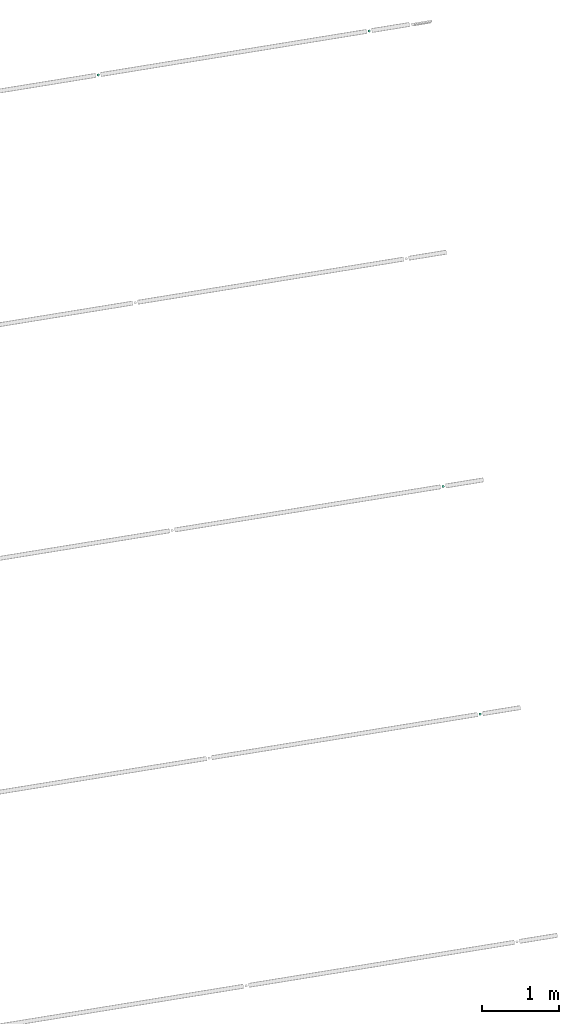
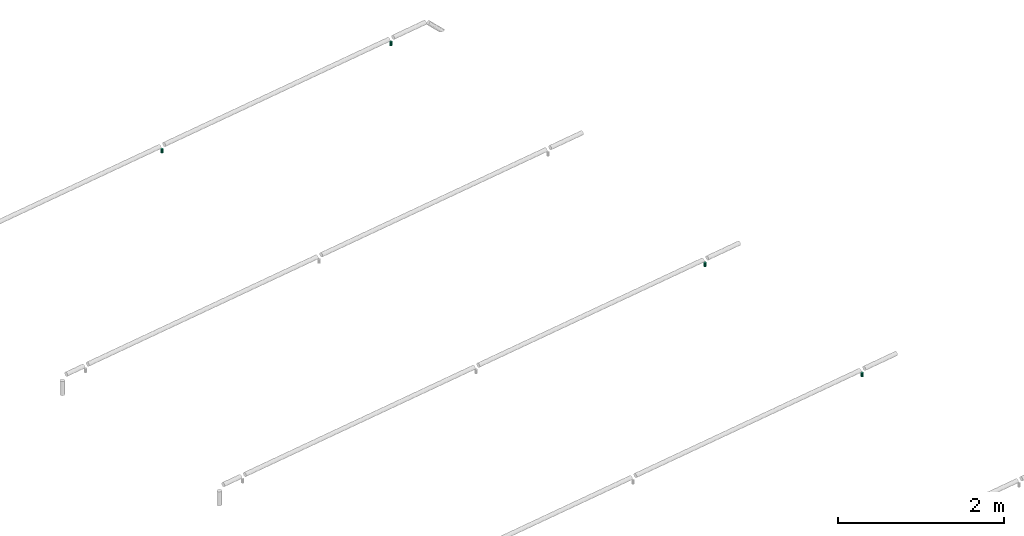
# One storey, part 8 of 10: 4 flow segments.
"""IFC2X3 building model written with IfcOpenShell, lengths in millimetres."""

import ifcopenshell
import ifcopenshell.guid

model = None  # the IFC model being written
_history = None  # IfcOwnerHistory: only IFC2X3 demands one
_inside = {}  # id of a spatial element -> (the spatial element, [elements in it])
_under = {}  # id of a project, library or spatial element -> (it, [spatial elements below it])
_declared = {}  # id of a project -> (the project, [libraries it declares])
_typed = {}  # id of a type object -> (the type object, [elements of that type])
_made_of = {}  # id of a material, layer set ... -> (it, [elements and type objects made of it])


def new_model(schema):
    """Start an empty IFC model of exactly this schema.

    Asked for "IFC4X3", IfcOpenShell would pick the latest addendum, in which some entities
    have other attributes; the version numbers below select the first issue.
    IFC2X3 requires an IfcOwnerHistory on every rooted entity: one is made here for all.
    """
    global model, _history
    if schema == "IFC4X3":
        model = ifcopenshell.file(schema_version=(4, 3, 0, 0))
    else:
        model = ifcopenshell.file(schema=schema)
    _inside.clear()
    _under.clear()
    _declared.clear()
    _typed.clear()
    _made_of.clear()
    _history = None
    if model.schema == "IFC2X3":
        org = make("IfcOrganization", Name="unknown")
        user = make(
            "IfcPersonAndOrganization",
            ThePerson=make("IfcPerson", FamilyName="unknown"),
            TheOrganization=org,
        )
        app = make(
            "IfcApplication",
            ApplicationDeveloper=org,
            Version="unknown",
            ApplicationFullName="unknown",
            ApplicationIdentifier="unknown",
        )
        _history = make(
            "IfcOwnerHistory",
            OwningUser=user,
            OwningApplication=app,
            ChangeAction="ADDED",
            CreationDate=0,
        )
    return model


def make(cls, **values):
    """One entity of the class cls with the attributes given. An attribute that is None is left unset."""
    return model.create_entity(
        cls, **{name: value for name, value in values.items() if value is not None}
    )


def entity(cls, *values):
    """Any entity or typed value of the class cls, its attributes in the order of the schema. None: left unset."""
    e = model.create_entity(cls)
    for i, value in enumerate(values):
        if value is not None:
            e[i] = value
    return e


def rooted(cls, **values):
    """An entity with a GlobalId (a new one), such as an element, a storey or a relation."""
    return make(cls, GlobalId=ifcopenshell.guid.new(), OwnerHistory=_history, **values)


def si_unit(unit_type, name, prefix=None):
    """IfcSIUnit, for example si_unit("LENGTHUNIT", "METRE", prefix="MILLI")."""
    return make("IfcSIUnit", UnitType=unit_type, Prefix=prefix, Name=name)


def converted_unit(unit_type, name, factor, base, dimensions=None, offset=None):
    """IfcConversionBasedUnit, such as the inch: factor (a typed value) times the base unit."""
    return make(
        "IfcConversionBasedUnit"
        if offset is None
        else "IfcConversionBasedUnitWithOffset",
        ConversionOffset=offset,
        Dimensions=None
        if dimensions is None
        else entity("IfcDimensionalExponents", *dimensions),
        UnitType=unit_type,
        Name=name,
        ConversionFactor=make(
            "IfcMeasureWithUnit", ValueComponent=factor, UnitComponent=base
        ),
    )


def derived_unit(unit_type, elements):
    """IfcDerivedUnit: a product of units, each with its exponent."""
    return make(
        "IfcDerivedUnit",
        Elements=[
            make("IfcDerivedUnitElement", Unit=unit, Exponent=power)
            for unit, power in elements
        ],
        UnitType=unit_type,
    )


def assignment(units):
    """IfcUnitAssignment: the units of a project."""
    return None if units is None else make("IfcUnitAssignment", Units=units)


def point(xyz):
    """IfcCartesianPoint."""
    return None if xyz is None else make("IfcCartesianPoint", Coordinates=xyz)


def direction(xyz):
    """IfcDirection."""
    return None if xyz is None else make("IfcDirection", DirectionRatios=xyz)


def frame(location, z_axis=None, x_axis=None):
    """IfcAxis2Placement3D, a coordinate frame: its origin and axes. An axis left out is left unset."""
    return make(
        "IfcAxis2Placement3D",
        Location=point(location),
        Axis=direction(z_axis),
        RefDirection=direction(x_axis),
    )


def frame_2d(location, x_axis=None):
    """IfcAxis2Placement2D, a coordinate frame in the plane: its origin and x axis."""
    return make(
        "IfcAxis2Placement2D", Location=point(location), RefDirection=direction(x_axis)
    )


def origin():
    """The frame at (0, 0, 0) with its axes left unset."""
    return frame((0.0, 0.0, 0.0))


def origin_with_axes():
    """The frame at (0, 0, 0) with the z axis (0, 0, 1) and the x axis (1, 0, 0) written out."""
    return frame((0.0, 0.0, 0.0), z_axis=(0.0, 0.0, 1.0), x_axis=(1.0, 0.0, 0.0))


def origin_2d_with_axis():
    """The frame at (0, 0) in the plane with the x axis (1, 0) written out."""
    return frame_2d((0.0, 0.0), x_axis=(1.0, 0.0))


def place(relative_to, where):
    """IfcLocalPlacement: puts the frame where relative to a parent placement (None: the world)."""
    return make(
        "IfcLocalPlacement", PlacementRelTo=relative_to, RelativePlacement=where
    )


def context(
    kind, dimensions, precision=None, world=None, true_north=None, identifier=None
):
    """IfcGeometricRepresentationContext, for example the 3D "Model" context."""
    return make(
        "IfcGeometricRepresentationContext",
        ContextIdentifier=identifier,
        ContextType=kind,
        CoordinateSpaceDimension=dimensions,
        Precision=precision,
        WorldCoordinateSystem=world,
        TrueNorth=true_north,
    )


def subcontext(parent, identifier, kind, view, scale=None):
    """IfcGeometricRepresentationSubContext, for example "Body" below "Model"."""
    return make(
        "IfcGeometricRepresentationSubContext",
        ContextIdentifier=identifier,
        ContextType=kind,
        ParentContext=parent,
        TargetScale=scale,
        TargetView=view,
    )


def project(units=None, contexts=None):
    """IfcProject with its units and contexts."""
    return rooted(
        "IfcProject",
        Name="project",
        RepresentationContexts=contexts,
        UnitsInContext=assignment(units),
    )


def spatial(cls, under=None, at=None, **own):
    """A site, building, storey or space (cls), placed at a placement, below another one or the project."""
    s = rooted(cls, ObjectPlacement=at, **own)
    if under is not None:
        _under.setdefault(under.id(), (under, []))[1].append(s)
    return s


def profile(cls, at=None, kind="AREA", **sizes):
    """A parametric profile (cls). Its sizes go by their IFC names, for example OverallWidth=200.0."""
    return make(cls, ProfileType=kind, Position=at, **sizes)


def circle(**sizes):
    """IfcCircleProfileDef."""
    return profile("IfcCircleProfileDef", **sizes)


def extrude(swept, where, along, depth):
    """IfcExtrudedAreaSolid: the profile swept, set in the frame where, extruded along a direction by depth."""
    return make(
        "IfcExtrudedAreaSolid",
        SweptArea=swept,
        Position=where,
        ExtrudedDirection=direction(along),
        Depth=depth,
    )


def shape(context_of_items, identifier, shape_type, items):
    """IfcShapeRepresentation: the items that make up one representation, for example the "Body"."""
    return make(
        "IfcShapeRepresentation",
        ContextOfItems=context_of_items,
        RepresentationIdentifier=identifier,
        RepresentationType=shape_type,
        Items=items,
    )


def made_of(thing, what):
    """Note that an element or type object is made of a material, layer set ...; save() writes the relation."""
    if what is not None:
        _made_of.setdefault(what.id(), (what, []))[1].append(thing)
    return thing


def type_object(cls, material=None, **own):
    """A type object (cls), such as IfcWallType, which elements share."""
    return made_of(rooted(cls, **own), material)


def element(
    cls,
    number,
    at=None,
    inside=None,
    cuts=None,
    type_object=None,
    material=None,
    context=None,
    identifier="Body",
    shape_type=None,
    held_by="IfcProductDefinitionShape",
    body=None,
    shapes=None,
    **own,
):
    """One element of the class cls, such as IfcWall. Its Tag is "e" and its number.

    at: its placement. inside: the storey or other place that contains it. cuts: it is an
    opening in that element (IfcRelVoidsElement). A single representation is given by context,
    identifier, shape_type and body (its items); several are given by shapes. held_by: the class
    of the entity that holds the representations. save() writes the other relations.
    """
    e = rooted(cls, Tag="e%d" % number, ObjectPlacement=at, **own)
    if body is not None:
        shapes = [shape(context, identifier, shape_type, body)]
    if shapes is not None:
        e.Representation = make(held_by, Representations=shapes)
    if inside is not None:
        _inside.setdefault(inside.id(), (inside, []))[1].append(e)
    if cuts is not None:
        rooted(
            "IfcRelVoidsElement", RelatingBuildingElement=cuts, RelatedOpeningElement=e
        )
    if type_object is not None:
        _typed.setdefault(type_object.id(), (type_object, []))[1].append(e)
    return made_of(e, material)


def aggregate(whole, parts):
    """IfcRelAggregates: a whole, such as a stair, and the parts it consists of."""
    return rooted("IfcRelAggregates", RelatingObject=whole, RelatedObjects=parts)


def save(model, path):
    """Write the relations noted so far, then the file.

    IfcRelAggregates (storeys below a building ...), IfcRelContainedInSpatialStructure (elements
    in a storey), IfcRelDefinesByType, IfcRelAssociatesMaterial and IfcRelDeclares: one each for
    every whole, place, type object, material and project.
    """
    for whole, parts in _under.values():
        aggregate(whole, parts)
    for where, things in _inside.values():
        rooted(
            "IfcRelContainedInSpatialStructure",
            RelatedElements=things,
            RelatingStructure=where,
        )
    for kind, things in _typed.values():
        rooted("IfcRelDefinesByType", RelatedObjects=things, RelatingType=kind)
    for what, things in _made_of.values():
        rooted("IfcRelAssociatesMaterial", RelatedObjects=things, RelatingMaterial=what)
    for by, libraries in _declared.values():
        rooted("IfcRelDeclares", RelatingContext=by, RelatedDefinitions=libraries)
    model.write(path)


model = new_model("IFC2X3")

# Units and contexts
plan_context = context("Plan", 3, precision=1e-05, world=origin_with_axes())
model_context = context("Model", 3, precision=0.01, world=origin(), true_north=direction((6.12323399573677e-17, 1.0)))
body_context = subcontext(model_context, "Body", "Model", "MODEL_VIEW")
ifc_project = project(units=[converted_unit("PLANEANGLEUNIT", "DEGREE", entity("IfcPositiveLengthMeasure", 0.0174532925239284), si_unit("PLANEANGLEUNIT", "RADIAN"), dimensions=[0, 0, 0, 0, 0, 0, 0]), si_unit("AREAUNIT", "SQUARE_METRE"), si_unit("LENGTHUNIT", "METRE", prefix="MILLI"), si_unit("MASSUNIT", "GRAM", prefix="KILO"), si_unit("POWERUNIT", "WATT"), si_unit("PRESSUREUNIT", "PASCAL", prefix="KILO"), si_unit("FORCEUNIT", "NEWTON", prefix="KILO"), si_unit("ELECTRICVOLTAGEUNIT", "VOLT"), si_unit("ELECTRICCURRENTUNIT", "AMPERE"), si_unit("THERMODYNAMICTEMPERATUREUNIT", "DEGREE_CELSIUS"), si_unit("TIMEUNIT", "SECOND"), si_unit("VOLUMEUNIT", "CUBIC_METRE"), derived_unit("LINEARVELOCITYUNIT", [(si_unit("LENGTHUNIT", "METRE"), 1), (si_unit("TIMEUNIT", "SECOND"), -1)]), derived_unit("VOLUMETRICFLOWRATEUNIT", [(si_unit("VOLUMEUNIT", "CUBIC_METRE"), 1), (si_unit("TIMEUNIT", "SECOND"), -1)]), derived_unit("THERMALTRANSMITTANCEUNIT", [(si_unit("POWERUNIT", "WATT"), 1), (si_unit("THERMODYNAMICTEMPERATUREUNIT", "KELVIN"), -1), (si_unit("AREAUNIT", "SQUARE_METRE"), -1)]), derived_unit("SOUNDPRESSUREUNIT", [(si_unit("PRESSUREUNIT", "PASCAL"), 1)])], contexts=[model_context, plan_context])

# Site, building, storey
site_placement = place(None, frame((-0.00071070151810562, 0.00438415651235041, 0.0), z_axis=(0.0, 0.0, 1.0), x_axis=(-0.160236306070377, 0.987078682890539, 0.0)))
site = spatial("IfcSite", under=ifc_project, at=site_placement, Name="Default", CompositionType="ELEMENT")
building_placement = place(site_placement, origin_with_axes())
building = spatial("IfcBuilding", under=site, at=building_placement, CompositionType="ELEMENT")
storey_placement = place(building_placement, frame((0.0, 0.0, 55630.0), z_axis=(0.0, 0.0, 1.0), x_axis=(1.0, 0.0, 0.0)))
storey = spatial("IfcBuildingStorey", under=building, at=storey_placement, Name="Nivå E", CompositionType="ELEMENT", Elevation=55630.0)

# Flow segments
pipe_segment_type = type_object("IfcPipeSegmentType", Name="Pipe Types:Stålrør normaltykke", PredefinedType="NOTDEFINED")
flow_segment_1_placement = place(storey_placement, origin_with_axes())
element("IfcFlowSegment", 1, at=flow_segment_1_placement, inside=storey, type_object=pipe_segment_type, Name="Pipe Types:Stålrør normaltykke", ObjectType="Pipe Types:Stålrør normaltykke", context=body_context, shape_type="SweptSolid", body=[
    extrude(circle(Radius=16.8500004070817, at=origin_2d_with_axis()), frame((778377.619644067, -508678.477242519, 2496.95200000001)), (0.0, 0.0, 1.0), 57.7479999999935),
])
flow_segment_2_placement = place(storey_placement, origin_with_axes())
element("IfcFlowSegment", 2, at=flow_segment_2_placement, inside=storey, type_object=pipe_segment_type, Name="Pipe Types:Stålrør normaltykke", ObjectType="Pipe Types:Stålrør normaltykke", context=body_context, shape_type="SweptSolid", body=[
    extrude(circle(Radius=16.8500004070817, at=origin_2d_with_axis()), frame((781377.619644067, -508678.477242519, 2496.95200000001)), (0.0, 0.0, 1.0), 57.7479999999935),
])
flow_segment_3_placement = place(storey_placement, origin_with_axes())
element("IfcFlowSegment", 3, at=flow_segment_3_placement, inside=storey, type_object=pipe_segment_type, Name="Pipe Types:Stålrør normaltykke", ObjectType="Pipe Types:Stålrør normaltykke", context=body_context, shape_type="SweptSolid", body=[
    extrude(circle(Radius=16.8500004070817, at=origin_2d_with_axis()), frame((787377.619644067, -508678.477242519, 2496.95200000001)), (0.0, 0.0, 1.0), 57.7479999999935),
])
flow_segment_4_placement = place(storey_placement, origin_with_axes())
element("IfcFlowSegment", 4, at=flow_segment_4_placement, inside=storey, type_object=pipe_segment_type, Name="Pipe Types:Stålrør normaltykke", ObjectType="Pipe Types:Stålrør normaltykke", context=body_context, shape_type="SweptSolid", body=[
    extrude(circle(Radius=16.8500004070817, at=origin_2d_with_axis()), frame((787377.619644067, -505108.477242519, 2496.95200000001)), (0.0, 0.0, 1.0), 57.7479999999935),
])

save(model, "model.ifc")
